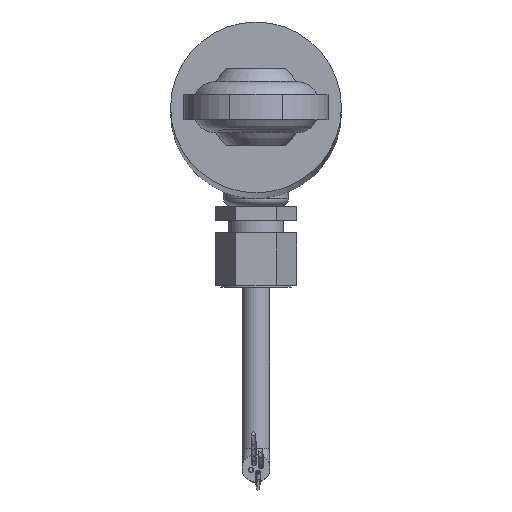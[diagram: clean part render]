
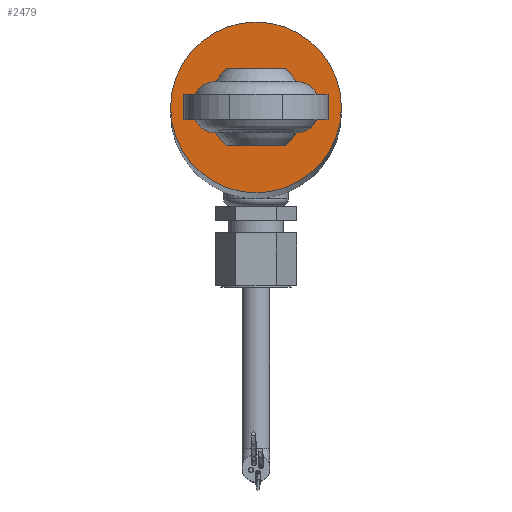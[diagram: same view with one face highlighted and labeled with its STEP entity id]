
A CAD part, top view. The second image highlights one B-rep face of the part: STEP entity #2479.
In plain terms, the highlighted planar face has unit normal (0, 0, 1).
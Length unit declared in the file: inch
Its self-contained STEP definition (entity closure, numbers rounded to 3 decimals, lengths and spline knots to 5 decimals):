
#195=FACE_BOUND('',#569,.T.);
#259=CIRCLE('',#2874,0.185);
#263=CIRCLE('',#2883,0.525);
#406=FACE_OUTER_BOUND('',#568,.T.);
#568=EDGE_LOOP('',(#1860));
#569=EDGE_LOOP('',(#1861));
#1057=VERTEX_POINT('',#4245);
#1061=VERTEX_POINT('',#4297);
#1336=EDGE_CURVE('',#1057,#1057,#259,.T.);
#1344=EDGE_CURVE('',#1061,#1061,#263,.T.);
#1860=ORIENTED_EDGE('',*,*,#1344,.T.);
#1861=ORIENTED_EDGE('',*,*,#1336,.T.);
#2220=PLANE('',#2884);
#2479=ADVANCED_FACE('',(#406,#195),#2220,.T.);
#2874=AXIS2_PLACEMENT_3D('',#4246,#3393,#3394);
#2883=AXIS2_PLACEMENT_3D('',#4298,#3412,#3413);
#2884=AXIS2_PLACEMENT_3D('',#4300,#3415,#3416);
#3393=DIRECTION('center_axis',(0.,0.,
-1.));
#3394=DIRECTION('ref_axis',(-1.,0.,0.));
#3412=DIRECTION('center_axis',(0.,0.,
1.));
#3413=DIRECTION('ref_axis',(-1.,0.,0.));
#3415=DIRECTION('center_axis',(0.,0.,
1.));
#3416=DIRECTION('ref_axis',(-1.,0.,0.));
#4245=CARTESIAN_POINT('',(0.185,0.,19.5));
#4246=CARTESIAN_POINT('Origin',(0.,0.,
19.5));
#4297=CARTESIAN_POINT('',(0.525,0.,19.5));
#4298=CARTESIAN_POINT('Origin',(0.,0.,
19.5));
#4300=CARTESIAN_POINT('Origin',(0.,0.,
19.5));
